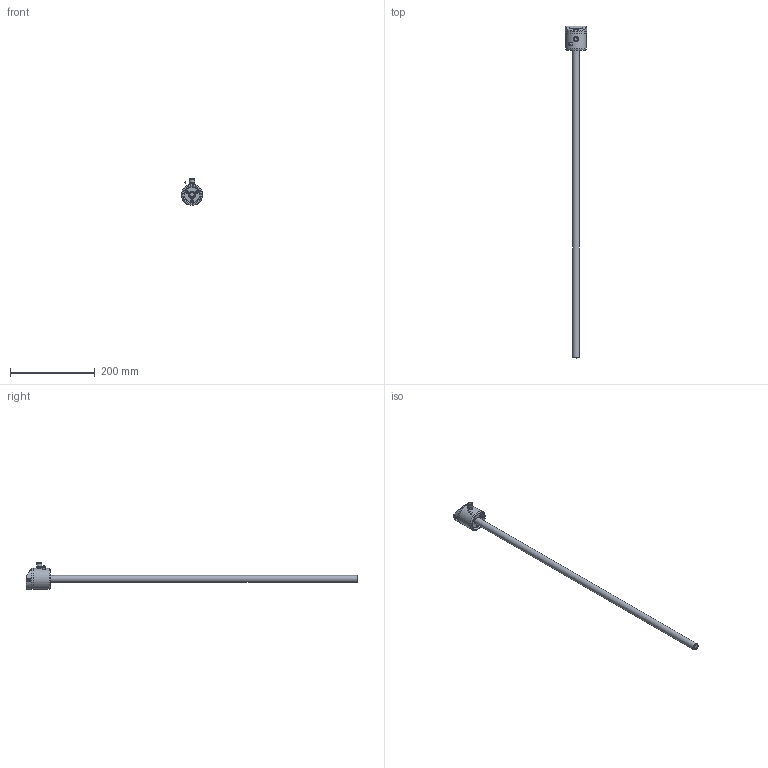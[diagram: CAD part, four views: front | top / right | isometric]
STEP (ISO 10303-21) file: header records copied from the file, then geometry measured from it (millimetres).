
FILE_DESCRIPTION( ( 'STEP AP203' ), '1' );
FILE_NAME( 'p:/temp/worker_98/temp/app_42_0201904301033418625073710e898ce_000000_00_00_000000/format_2/LK1224.stp', '2019-04-30T08:33:44', ( '' ), ( '' ), ' ', 'PARTsolutions', ' ' );
FILE_SCHEMA( ( 'CONFIG_CONTROL_DESIGN' ) );
Length unit declared in the file: millimetre
Products named in the file (1): _LK1224
Bounding box: 50 x 782.91 x 63.42 mm (x, y, z)
Volume: 247821.4 mm3; surface area: 50458.5 mm2
Topology: 1 solids, 1 shells, 190 faces, 489 edges, 321 vertices
Faces by surface type: cylinder 101, plane 63, torus 22, cone 4
Full cylindrical faces by diameter (mm): 1.65 x1, 5.84 x3, 8.4 x1, 9.853 x1, 11.3 x1, 12 x2, 15.6 x1, 16 x1, 37.5 x1, 49.4 x1, 49.7 x1, 50 x1
Entity records: 6047 total; most frequent: CARTESIAN_POINT 1382, DIRECTION 1015, ORIENTED_EDGE 910, EDGE_CURVE 455, AXIS2_PLACEMENT_3D 408, VERTEX_POINT 315, EDGE_LOOP 240, CIRCLE 216
